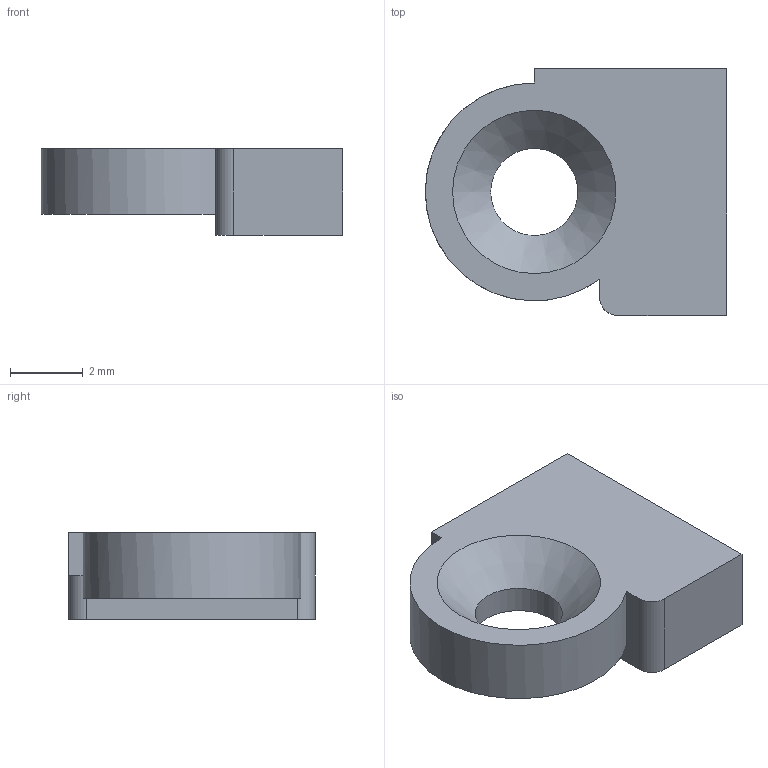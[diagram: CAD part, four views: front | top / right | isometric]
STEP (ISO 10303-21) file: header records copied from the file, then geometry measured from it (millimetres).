
FILE_DESCRIPTION(('Open CASCADE Model'),'2;1');
FILE_NAME('Open CASCADE Shape Model','2026-10-02T12:53:27',('Author'),( 'Open CASCADE'),'Open CASCADE STEP processor 7.9','Open CASCADE 7.9' ,'Unknown');
FILE_SCHEMA(('AUTOMOTIVE_DESIGN { 1 0 10303 214 1 1 1 1 }'));
Length unit declared in the file: millimetre
Products named in the file (1): Open CASCADE STEP translator 7.9 3
Bounding box: 8.3 x 6.8 x 2.38 mm (x, y, z)
Volume: 87.9 mm3; surface area: 162.2 mm2
Topology: 1 solids, 1 shells, 14 faces, 35 edges, 23 vertices
Faces by surface type: plane 9, cylinder 4, cone 1
Full cylindrical faces by diameter (mm): 2.4 x1
Entity records: 892 total; most frequent: CARTESIAN_POINT 159, DIRECTION 139, LINE 82, VECTOR 82, ORIENTED_EDGE 70, PCURVE 70, DEFINITIONAL_REPRESENTATION 70, EDGE_CURVE 35
